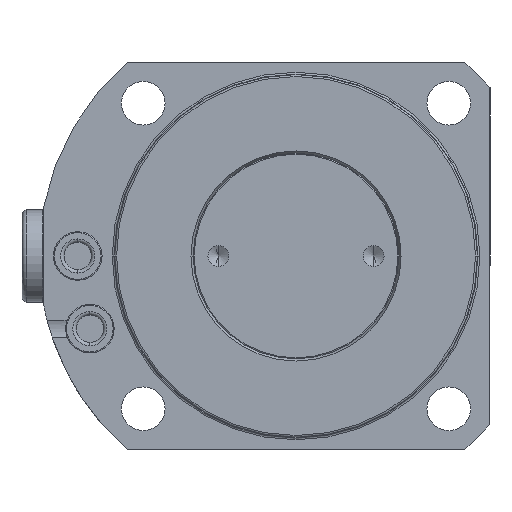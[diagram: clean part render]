
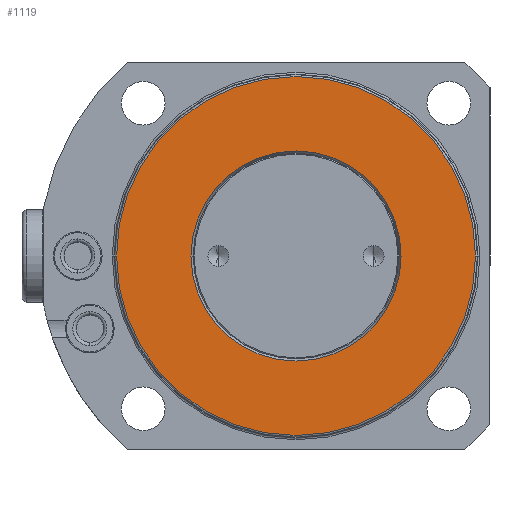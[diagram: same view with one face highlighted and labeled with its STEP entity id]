
A CAD part, front view. The second image highlights one B-rep face of the part: STEP entity #1119.
In plain terms, the highlighted planar face has unit normal (0, -1, 0).
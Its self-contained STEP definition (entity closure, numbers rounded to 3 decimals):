
#370=PLANE('',#4855);
#504=FACE_BOUND('',#1737,.T.);
#505=FACE_BOUND('',#1738,.T.);
#834=CIRCLE('',#4804,37.);
#838=CIRCLE('',#4809,21.662);
#867=CIRCLE('',#4852,21.662);
#868=CIRCLE('',#4854,37.);
#1119=ADVANCED_FACE('',(#504,#505),#370,.T.);
#1737=EDGE_LOOP('',(#3064,#3065));
#1738=EDGE_LOOP('',(#3066,#3067));
#3064=ORIENTED_EDGE('',*,*,#4178,.T.);
#3065=ORIENTED_EDGE('',*,*,#4237,.T.);
#3066=ORIENTED_EDGE('',*,*,#4173,.F.);
#3067=ORIENTED_EDGE('',*,*,#4238,.F.);
#3673=VERTEX_POINT('',#7850);
#3674=VERTEX_POINT('',#7851);
#3677=VERTEX_POINT('',#7859);
#3678=VERTEX_POINT('',#7861);
#4173=EDGE_CURVE('',#3673,#3674,#834,.T.);
#4178=EDGE_CURVE('',#3678,#3677,#838,.T.);
#4237=EDGE_CURVE('',#3677,#3678,#867,.T.);
#4238=EDGE_CURVE('',#3674,#3673,#868,.T.);
#4804=AXIS2_PLACEMENT_3D('',#7849,#5995,#5996);
#4809=AXIS2_PLACEMENT_3D('',#7860,#6006,#6007);
#4852=AXIS2_PLACEMENT_3D('',#8022,#6111,#6112);
#4854=AXIS2_PLACEMENT_3D('',#8024,#6115,#6116);
#4855=AXIS2_PLACEMENT_3D('',#8025,#6117,#6118);
#5995=DIRECTION('',(0.,1.,0.));
#5996=DIRECTION('',(-1.,0.,0.));
#6006=DIRECTION('',(0.,1.,0.));
#6007=DIRECTION('',(-1.,0.,0.));
#6111=DIRECTION('',(0.,1.,0.));
#6112=DIRECTION('',(-1.,0.,0.));
#6115=DIRECTION('',(0.,1.,0.));
#6116=DIRECTION('',(-1.,0.,0.));
#6117=DIRECTION('',(0.,-1.,0.));
#6118=DIRECTION('',(-1.,0.,0.));
#7849=CARTESIAN_POINT('',(0.,3.999,0.));
#7850=CARTESIAN_POINT('',(-37.,3.999,0.));
#7851=CARTESIAN_POINT('',(37.,3.999,0.));
#7859=CARTESIAN_POINT('',(-21.662,3.999,0.));
#7860=CARTESIAN_POINT('',(0.,3.999,0.));
#7861=CARTESIAN_POINT('',(21.662,3.999,0.));
#8022=CARTESIAN_POINT('',(0.,3.999,0.));
#8024=CARTESIAN_POINT('',(0.,3.999,0.));
#8025=CARTESIAN_POINT('',(0.,3.999,0.));
